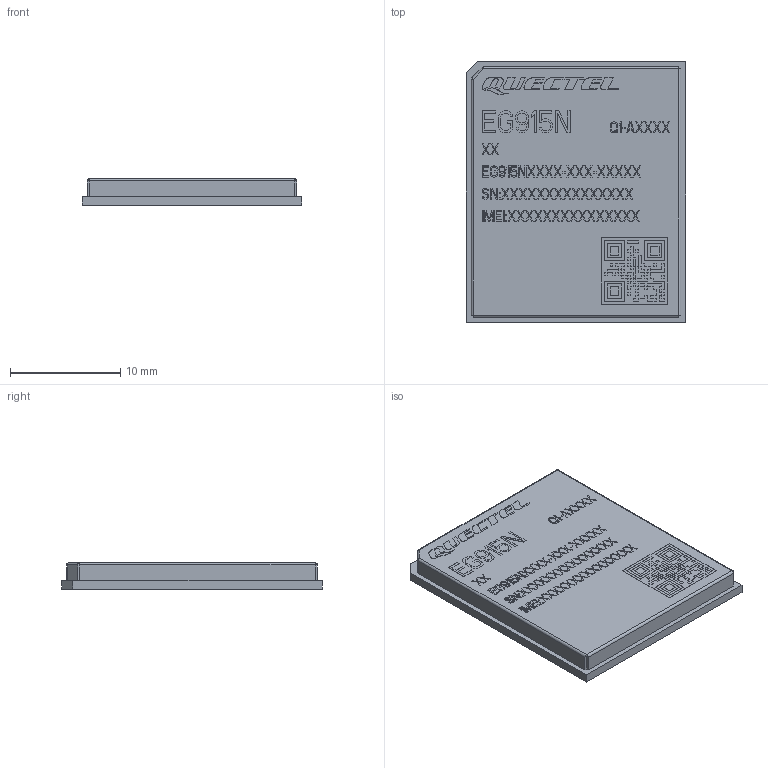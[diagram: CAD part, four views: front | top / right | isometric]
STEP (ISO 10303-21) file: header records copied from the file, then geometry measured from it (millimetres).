
FILE_DESCRIPTION((''),'2;1');
FILE_NAME('EG915-EU_ASM','2021-10-15T',('cesare.chen'),(''),'CREO PARAMETRIC BY PTC INC, 2014190','CREO PARAMETRIC BY PTC INC, 2014190','');
FILE_SCHEMA(('AUTOMOTIVE_DESIGN { 1 0 10303 214 1 1 1 1 }'));
Products named in the file (3): EG915U_PCB; EG915_COVER; EG915-EU_ASM
Assembly tree (2 placements, depth 2):
  EG915-EU_ASM
    EG915U_PCB
    EG915_COVER
Bounding box: 19.9 x 23.6 x 2.4 mm (x, y, z)
Volume: 481.9 mm3; surface area: 2118.6 mm2
Topology: 2 solids, 2 shells, 2263 faces, 5957 edges, 3932 vertices
Faces by surface type: plane 2220, extrusion 38, cylinder 5
Entity records: 89047 total; most frequent: CARTESIAN_POINT 12464, ORIENTED_EDGE 11914, DIRECTION 10389, PRESENTATION_STYLE_ASSIGNMENT 6183, STYLED_ITEM 5959, CURVE_STYLE 5957, EDGE_CURVE 5957, VECTOR 5909
